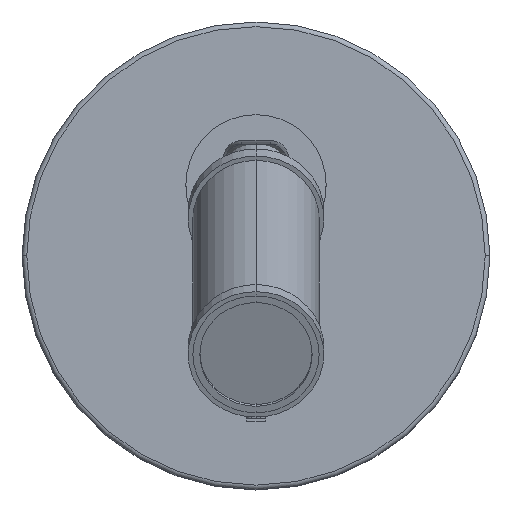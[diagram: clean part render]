
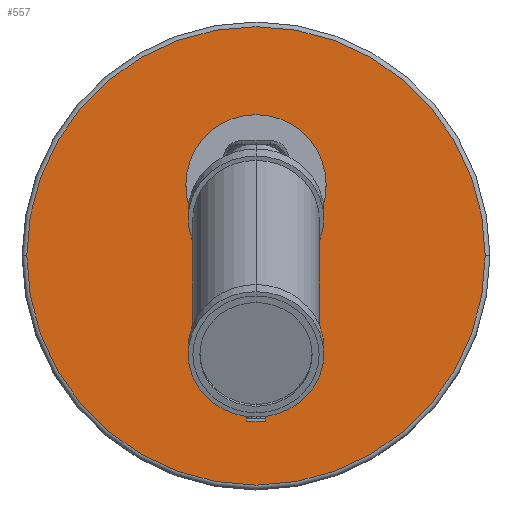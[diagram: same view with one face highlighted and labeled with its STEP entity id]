
A CAD part, top view. The second image highlights one B-rep face of the part: STEP entity #557.
In plain terms, the highlighted planar face has unit normal (0, 0, 1).
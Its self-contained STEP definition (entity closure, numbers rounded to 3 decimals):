
#15 = VECTOR ( 'NONE', #400, 1000. ) ;
#125 = FACE_BOUND ( 'NONE', #1168, .T. ) ;
#193 = LINE ( 'NONE', #1966, #1100 ) ;
#258 = DIRECTION ( 'NONE',  ( 1., 0., 0. ) ) ;
#340 = DIRECTION ( 'NONE',  ( 0., 1., 0. ) ) ;
#374 = VERTEX_POINT ( 'NONE', #1489 ) ;
#400 = DIRECTION ( 'NONE',  ( -1., 0., 0. ) ) ;
#513 = VERTEX_POINT ( 'NONE', #555 ) ;
#555 = CARTESIAN_POINT ( 'NONE',  ( 49., 0., 25. ) ) ;
#557 = ADVANCED_FACE ( 'NONE', ( #2292, #125 ), #887, .T. ) ;
#654 = CIRCLE ( 'NONE', #2149, 49. ) ;
#657 = LINE ( 'NONE', #890, #2249 ) ;
#718 = EDGE_CURVE ( 'NONE', #1658, #513, #915, .T. ) ;
#804 = CARTESIAN_POINT ( 'NONE',  ( -2., -35.296, 25. ) ) ;
#809 = VERTEX_POINT ( 'NONE', #1838 ) ;
#848 = LINE ( 'NONE', #804, #1669 ) ;
#887 = PLANE ( 'NONE',  #1742 ) ;
#890 = CARTESIAN_POINT ( 'NONE',  ( 2., -15.296, 25. ) ) ;
#909 = DIRECTION ( 'NONE',  ( 1., 0., 0. ) ) ;
#915 = CIRCLE ( 'NONE', #1502, 49. ) ;
#1015 = VERTEX_POINT ( 'NONE', #2251 ) ;
#1100 = VECTOR ( 'NONE', #1797, 1000. ) ;
#1168 = EDGE_LOOP ( 'NONE', ( #1246, #2092, #1898, #1376 ) ) ;
#1169 = CARTESIAN_POINT ( 'NONE',  ( -2., -15.296, 25. ) ) ;
#1235 = EDGE_CURVE ( 'NONE', #1015, #374, #657, .T. ) ;
#1246 = ORIENTED_EDGE ( 'NONE', *, *, #1235, .F. ) ;
#1281 = DIRECTION ( 'NONE',  ( 0., 0., 1. ) ) ;
#1376 = ORIENTED_EDGE ( 'NONE', *, *, #1408, .F. ) ;
#1408 = EDGE_CURVE ( 'NONE', #374, #1687, #2330, .T. ) ;
#1434 = DIRECTION ( 'NONE',  ( 0., 0., 1. ) ) ;
#1448 = DIRECTION ( 'NONE',  ( 1., 0., 0. ) ) ;
#1470 = CARTESIAN_POINT ( 'NONE',  ( 0., 0., 25. ) ) ;
#1489 = CARTESIAN_POINT ( 'NONE',  ( 2., -15.296, 25. ) ) ;
#1502 = AXIS2_PLACEMENT_3D ( 'NONE', #1683, #1694, #1711 ) ;
#1621 = ORIENTED_EDGE ( 'NONE', *, *, #1936, .T. ) ;
#1658 = VERTEX_POINT ( 'NONE', #1915 ) ;
#1669 = VECTOR ( 'NONE', #258, 1000. ) ;
#1683 = CARTESIAN_POINT ( 'NONE',  ( 0., 0., 25. ) ) ;
#1687 = VERTEX_POINT ( 'NONE', #1909 ) ;
#1694 = DIRECTION ( 'NONE',  ( 0., 0., 1. ) ) ;
#1711 = DIRECTION ( 'NONE',  ( 1., 0., 0. ) ) ;
#1742 = AXIS2_PLACEMENT_3D ( 'NONE', #2178, #1434, #1448 ) ;
#1797 = DIRECTION ( 'NONE',  ( 0., -1., 0. ) ) ;
#1838 = CARTESIAN_POINT ( 'NONE',  ( -2., -35.296, 25. ) ) ;
#1881 = EDGE_CURVE ( 'NONE', #1687, #809, #193, .T. ) ;
#1898 = ORIENTED_EDGE ( 'NONE', *, *, #1881, .F. ) ;
#1909 = CARTESIAN_POINT ( 'NONE',  ( -2., -15.296, 25. ) ) ;
#1915 = CARTESIAN_POINT ( 'NONE',  ( -49., 0., 25. ) ) ;
#1936 = EDGE_CURVE ( 'NONE', #513, #1658, #654, .T. ) ;
#1961 = ORIENTED_EDGE ( 'NONE', *, *, #718, .T. ) ;
#1966 = CARTESIAN_POINT ( 'NONE',  ( -2., -15.296, 25. ) ) ;
#2090 = EDGE_LOOP ( 'NONE', ( #1621, #1961 ) ) ;
#2092 = ORIENTED_EDGE ( 'NONE', *, *, #2094, .F. ) ;
#2094 = EDGE_CURVE ( 'NONE', #809, #1015, #848, .T. ) ;
#2149 = AXIS2_PLACEMENT_3D ( 'NONE', #1470, #1281, #909 ) ;
#2178 = CARTESIAN_POINT ( 'NONE',  ( 0., 0., 25. ) ) ;
#2249 = VECTOR ( 'NONE', #340, 1000. ) ;
#2251 = CARTESIAN_POINT ( 'NONE',  ( 2., -35.296, 25. ) ) ;
#2292 = FACE_OUTER_BOUND ( 'NONE', #2090, .T. ) ;
#2330 = LINE ( 'NONE', #1169, #15 ) ;
